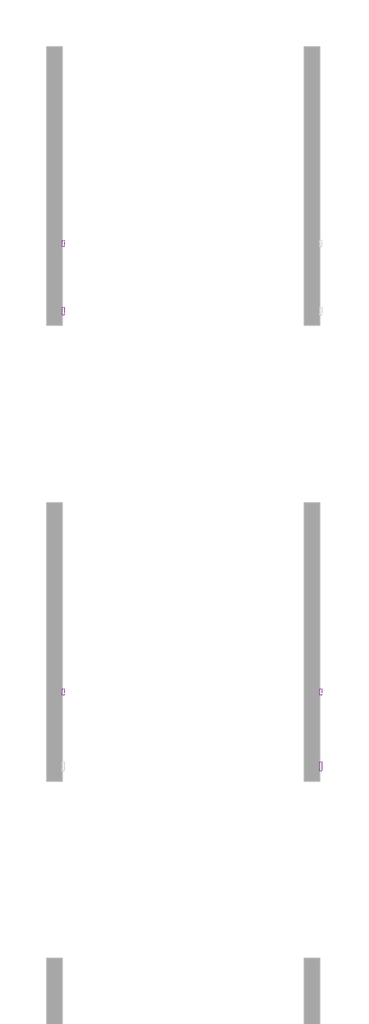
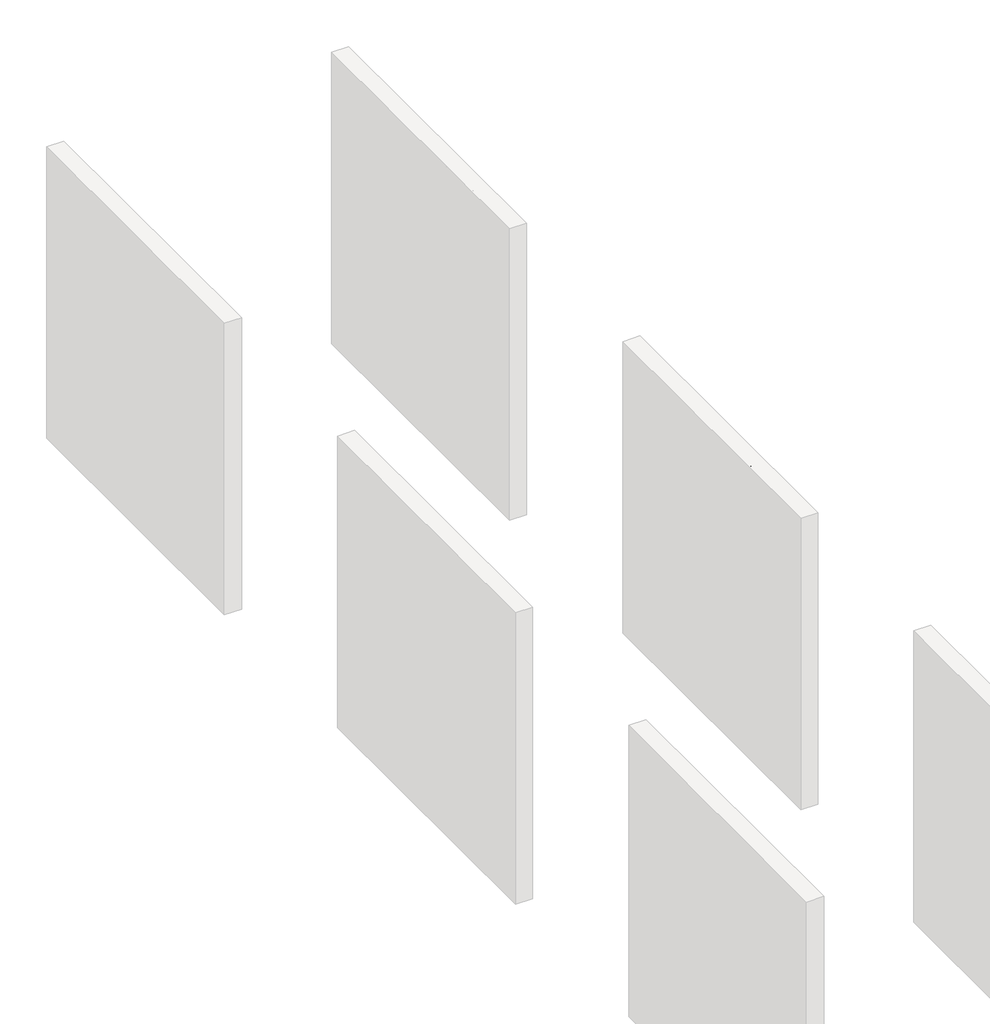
# One storey, part 7 of 11: 5 proxies.
"""IFC4 building model written with IfcOpenShell, lengths in millimetres."""

from ifc_helpers import new_model, si_unit, frame, origin, place, context, project, spatial, polyline, outline, extrude, element, save

model = new_model("IFC4")

# Units and contexts
model_context = context("Model", 3, world=origin())
ifc_project = project(units=[si_unit("LENGTHUNIT", "METRE", prefix="MILLI")], contexts=[model_context])

# Site, building, storey
site = spatial("IfcSite", under=ifc_project)
building = spatial("IfcBuilding", under=site)
storey = spatial("IfcBuildingStorey", under=building, Name="PORTOBELLO - SHOWROOM", Elevation=0.0)

# Proxies
placement = place(None, origin())
element("IfcBuildingElementProxy", 1, Name="10mm Arial", ObjectType="10mm Arial", at=placement, inside=storey, context=model_context, shape_type="SweptSolid", body=[
    extrude(outline(polyline([(6079.9490841, 2478.2261649), (6079.9490841, 2578.6824751), (6118.282388, 2578.6824751), (6137.0566325, 2575.7271564), (6148.1421433, 2566.6404711), (6152.152057, 2553.7891267), (6148.7798054, 2542.0536911), (6138.5894742, 2533.1632095), (6150.9625719, 2523.7944814), (6155.2913167, 2508.1717593), (6152.335998, 2494.6704901), (6145.0151463, 2485.0565073), (6134.0890511, 2479.9552103), (6117.9880824, 2478.2261649), (6079.9490841, 2478.2261649)]), holes=[polyline([(6092.5061229, 2537.8720991), (6115.4374339, 2537.8720991), (6128.8283385, 2538.9512196), (6136.8849542, 2543.5987955), (6139.5950183, 2551.7780385), (6137.0688952, 2559.9695443), (6129.8338827, 2564.8133239), (6113.6961258, 2566.1254363), (6092.5061229, 2566.1254363), (6092.5061229, 2537.8720991)]), polyline([(6092.5061229, 2490.7832037), (6118.2578626, 2490.7832037), (6127.5775398, 2491.273713), (6135.4624772, 2494.0083025), (6140.6864015, 2499.5878461), (6142.734278, 2508.049132), (6140.3307823, 2517.8102676), (6132.5439467, 2523.6350659), (6117.0315892, 2525.3150603), (6092.5061229, 2525.3150603), (6092.5061229, 2490.7832037)])]), frame((-27447.8341365, 0.0, 0.0), z_axis=(1.0, 0.0, 0.0), x_axis=(0.0, 1.0, 0.0)), (0.0, 0.0, 1.0), 20.0),
    extrude(outline(polyline([(6167.8483555, 2515.1124663), (6170.5645509, 2532.8995608), (6178.7131371, 2545.4014173), (6188.780841, 2551.5266525), (6200.8351077, 2553.5683975), (6214.0267429, 2551.0821284), (6224.5634964, 2543.6233209), (6231.4704809, 2531.7805864), (6233.772809, 2516.1425359), (6229.7015816, 2493.7998361), (6217.8435186, 2481.1569582), (6200.8351077, 2476.6565351), (6187.484057, 2479.1336072), (6176.9595662, 2486.5648235), (6170.1261582, 2498.6558784), (6167.8483555, 2515.1124663)]), holes=[polyline([(6180.4053943, 2515.1369918), (6181.8585282, 2503.7725038), (6186.2179298, 2495.6760342), (6192.778492, 2490.829189), (6200.8351077, 2489.2135739), (6208.8549352, 2490.838386), (6215.4032347, 2495.7128224), (6219.7626364, 2503.9165909), (6221.2157703, 2515.5293992), (6219.7534393, 2526.5627934), (6215.3664465, 2534.5488984), (6208.80895, 2539.3957437), (6200.8351077, 2541.0113588), (6192.778492, 2539.401875), (6186.2179298, 2534.5734239), (6181.8585282, 2526.4953484), (6180.4053943, 2515.1369918)])]), frame((-27447.8341365, 0.0, 0.0), z_axis=(1.0, 0.0, 0.0), x_axis=(0.0, 1.0, 0.0)), (0.0, 0.0, 1.0), 20.0),
    extrude(outline(polyline([(6247.8994777, 2478.2261649), (6247.8994777, 2551.9987677), (6258.8868866, 2551.9987677), (6258.8868866, 2541.0849352), (6266.6859849, 2551.1403764), (6274.5341341, 2553.5683975), (6287.1402238, 2549.6933739), (6282.9463691, 2538.4361848), (6274.1172012, 2541.0113588), (6267.0170787, 2538.5342867), (6262.4921301, 2531.6671561), (6260.4565164, 2517.0009272), (6260.4565164, 2478.2261649), (6247.8994777, 2478.2261649)])), frame((-27447.8341365, 0.0, 0.0), z_axis=(1.0, 0.0, 0.0), x_axis=(0.0, 1.0, 0.0)), (0.0, 0.0, 1.0), 20.0),
    extrude(outline(polyline([(6342.0772684, 2487.643944), (6329.9003744, 2479.1336072), (6316.4481561, 2476.6565351), (6305.9543222, 2478.1464572), (6298.2134719, 2482.6162234), (6293.440203, 2489.4036462), (6291.8491133, 2497.846538), (6294.252609, 2507.7793519), (6300.5679166, 2514.989839), (6309.3602963, 2519.1101173), (6320.2250779, 2520.9985782), (6342.003692, 2525.3150603), (6342.0772684, 2528.1109635), (6338.6191777, 2537.3815898), (6324.7377637, 2541.0113588), (6312.0335721, 2538.5956003), (6305.975782, 2530.0239499), (6293.4187432, 2531.5935797), (6298.851134, 2543.8563129), (6309.789492, 2551.0422745), (6326.3564445, 2553.5683975), (6341.5744964, 2551.3365801), (6350.1706723, 2545.732511), (6354.0211705, 2537.2099115), (6354.6343072, 2526.2225026), (6354.6343072, 2510.5997805), (6355.2719693, 2488.7843782), (6357.7735669, 2478.2261649), (6345.2165281, 2478.2261649), (6342.0772684, 2487.643944)]), holes=[polyline([(6342.0772684, 2512.7580215), (6321.8192332, 2508.9075233), (6311.0157653, 2506.8719096), (6306.1229348, 2503.5609717), (6304.4061521, 2498.7294548), (6308.1462857, 2491.9359006), (6319.1214319, 2489.2135739), (6331.8256235, 2492.2179435), (6340.0171292, 2499.4897443), (6342.003692, 2509.2018289), (6342.0772684, 2512.7580215)])]), frame((-27447.8341365, 0.0, 0.0), z_axis=(1.0, 0.0, 0.0), x_axis=(0.0, 1.0, 0.0)), (0.0, 0.0, 1.0), 20.0),
    extrude(outline(polyline([(6412.7106115, 2478.2261649), (6412.7106115, 2578.6824751), (6451.0439154, 2578.6824751), (6469.8181599, 2575.7271564), (6480.9036707, 2566.6404711), (6484.9135844, 2553.7891267), (6481.5413328, 2542.0536911), (6471.3510015, 2533.1632095), (6483.7240993, 2523.7944814), (6488.0528441, 2508.1717593), (6485.0975254, 2494.6704901), (6477.7766737, 2485.0565073), (6466.8505784, 2479.9552103), (6450.7496098, 2478.2261649), (6412.7106115, 2478.2261649)]), holes=[polyline([(6425.2676503, 2537.8720991), (6448.1989613, 2537.8720991), (6461.5898659, 2538.9512196), (6469.6464816, 2543.5987955), (6472.3565456, 2551.7780385), (6469.8304226, 2559.9695443), (6462.59541, 2564.8133239), (6446.4576532, 2566.1254363), (6425.2676503, 2566.1254363), (6425.2676503, 2537.8720991)]), polyline([(6425.2676503, 2490.7832037), (6451.0193899, 2490.7832037), (6460.3390671, 2491.273713), (6468.2240046, 2494.0083025), (6473.4479289, 2499.5878461), (6475.4958053, 2508.049132), (6473.0923096, 2517.8102676), (6465.3054741, 2523.6350659), (6449.7931166, 2525.3150603), (6425.2676503, 2525.3150603), (6425.2676503, 2490.7832037)])]), frame((-27447.8341365, 0.0, 0.0), z_axis=(1.0, 0.0, 0.0), x_axis=(0.0, 1.0, 0.0)), (0.0, 0.0, 1.0), 20.0),
    extrude(outline(polyline([(6500.6098829, 2515.1124663), (6503.3260783, 2532.8995608), (6511.4746645, 2545.4014173), (6521.5423684, 2551.5266525), (6533.5966351, 2553.5683975), (6546.7882703, 2551.0821284), (6557.3250238, 2543.6233209), (6564.2320083, 2531.7805864), (6566.5343364, 2516.1425359), (6562.463109, 2493.7998361), (6550.605046, 2481.1569582), (6533.5966351, 2476.6565351), (6520.2455844, 2479.1336072), (6509.7210936, 2486.5648235), (6502.8876856, 2498.6558784), (6500.6098829, 2515.1124663)]), holes=[polyline([(6513.1669216, 2515.1369918), (6514.6200555, 2503.7725038), (6518.9794572, 2495.6760342), (6525.5400194, 2490.829189), (6533.5966351, 2489.2135739), (6541.6164626, 2490.838386), (6548.1647621, 2495.7128224), (6552.5241638, 2503.9165909), (6553.9772976, 2515.5293992), (6552.5149667, 2526.5627934), (6548.1279739, 2534.5488984), (6541.5704774, 2539.3957437), (6533.5966351, 2541.0113588), (6525.5400194, 2539.401875), (6518.9794572, 2534.5734239), (6514.6200555, 2526.4953484), (6513.1669216, 2515.1369918)])]), frame((-27447.8341365, 0.0, 0.0), z_axis=(1.0, 0.0, 0.0), x_axis=(0.0, 1.0, 0.0)), (0.0, 0.0, 1.0), 20.0),
    extrude(outline(polyline([(6580.661005, 2478.2261649), (6580.661005, 2551.9987677), (6591.6484139, 2551.9987677), (6591.6484139, 2541.0849352), (6599.4475122, 2551.1403764), (6607.2956615, 2553.5683975), (6619.9017512, 2549.6933739), (6615.7078964, 2538.4361848), (6606.8787285, 2541.0113588), (6599.778606, 2538.5342867), (6595.2536575, 2531.6671561), (6593.2180438, 2517.0009272), (6593.2180438, 2478.2261649), (6580.661005, 2478.2261649)])), frame((-27447.8341365, 0.0, 0.0), z_axis=(1.0, 0.0, 0.0), x_axis=(0.0, 1.0, 0.0)), (0.0, 0.0, 1.0), 20.0),
    extrude(outline(polyline([(6674.8387958, 2487.643944), (6662.6619017, 2479.1336072), (6649.2096835, 2476.6565351), (6638.7158495, 2478.1464572), (6630.9749992, 2482.6162234), (6626.2017303, 2489.4036462), (6624.6106407, 2497.846538), (6627.0141364, 2507.7793519), (6633.329444, 2514.989839), (6642.1218237, 2519.1101173), (6652.9866053, 2520.9985782), (6674.7652194, 2525.3150603), (6674.8387958, 2528.1109635), (6671.380705, 2537.3815898), (6657.4992911, 2541.0113588), (6644.7950995, 2538.5956003), (6638.7373093, 2530.0239499), (6626.1802706, 2531.5935797), (6631.6126614, 2543.8563129), (6642.5510193, 2551.0422745), (6659.1179719, 2553.5683975), (6674.3360237, 2551.3365801), (6682.9321997, 2545.732511), (6686.7826979, 2537.2099115), (6687.3958346, 2526.2225026), (6687.3958346, 2510.5997805), (6688.0334967, 2488.7843782), (6690.5350942, 2478.2261649), (6677.9780555, 2478.2261649), (6674.8387958, 2487.643944)]), holes=[polyline([(6674.8387958, 2512.7580215), (6654.5807606, 2508.9075233), (6643.7772927, 2506.8719096), (6638.8844621, 2503.5609717), (6637.1676795, 2498.7294548), (6640.9078131, 2491.9359006), (6651.8829593, 2489.2135739), (6664.5871509, 2492.2179435), (6672.7786566, 2499.4897443), (6674.7652194, 2509.2018289), (6674.8387958, 2512.7580215)])]), frame((-27447.8341365, 0.0, 0.0), z_axis=(1.0, 0.0, 0.0), x_axis=(0.0, 1.0, 0.0)), (0.0, 0.0, 1.0), 20.0),
])
element("IfcBuildingElementProxy", 2, Name="10mm Arial", ObjectType="10mm Arial", at=placement, inside=storey, context=model_context, shape_type="SweptSolid", body=[
    extrude(outline(polyline([(1659.9490841, 2478.2261649), (1659.9490841, 2578.6824751), (1681.55602, 2578.6824751), (1702.1083608, 2507.8774537), (1706.2531646, 2493.0885975), (1710.7413249, 2509.1037271), (1730.9503092, 2578.6824751), (1752.557245, 2578.6824751), (1752.557245, 2478.2261649), (1740.0002063, 2478.2261649), (1740.0002063, 2566.1254363), (1714.7635014, 2478.2261649), (1697.7428278, 2478.2261649), (1672.5061229, 2566.1254363), (1672.5061229, 2478.2261649), (1659.9490841, 2478.2261649)])), frame((-24947.8341365, 0.0, 0.0), z_axis=(1.0, 0.0, 0.0), x_axis=(0.0, 1.0, 0.0)), (0.0, 0.0, 1.0), 20.0),
    extrude(outline(polyline([(1820.0513284, 2487.643944), (1807.8744344, 2479.1336072), (1794.4222161, 2476.6565351), (1783.9283822, 2478.1464572), (1776.1875319, 2482.6162234), (1771.414263, 2489.4036462), (1769.8231733, 2497.846538), (1772.226669, 2507.7793519), (1778.5419766, 2514.989839), (1787.3343563, 2519.1101173), (1798.1991379, 2520.9985782), (1819.977752, 2525.3150603), (1820.0513284, 2528.1109635), (1816.5932377, 2537.3815898), (1802.7118237, 2541.0113588), (1790.0076321, 2538.5956003), (1783.949842, 2530.0239499), (1771.3928032, 2531.5935797), (1776.825194, 2543.8563129), (1787.763552, 2551.0422745), (1804.3305045, 2553.5683975), (1819.5485564, 2551.3365801), (1828.1447323, 2545.732511), (1831.9952305, 2537.2099115), (1832.6083672, 2526.2225026), (1832.6083672, 2510.5997805), (1833.2460293, 2488.7843782), (1835.7476269, 2478.2261649), (1823.1905881, 2478.2261649), (1820.0513284, 2487.643944)]), holes=[polyline([(1820.0513284, 2512.7580215), (1799.7932932, 2508.9075233), (1788.9898253, 2506.8719096), (1784.0969948, 2503.5609717), (1782.3802121, 2498.7294548), (1786.1203457, 2491.9359006), (1797.0954919, 2489.2135739), (1809.7996835, 2492.2179435), (1817.9911892, 2499.4897443), (1819.977752, 2509.2018289), (1820.0513284, 2512.7580215)])]), frame((-24947.8341365, 0.0, 0.0), z_axis=(1.0, 0.0, 0.0), x_axis=(0.0, 1.0, 0.0)), (0.0, 0.0, 1.0), 20.0),
    extrude(outline(polyline([(1849.8742955, 2478.2261649), (1849.8742955, 2551.9987677), (1862.4313343, 2551.9987677), (1862.4313343, 2541.6980718), (1872.0330543, 2550.6008161), (1885.1419161, 2553.5683975), (1896.9999791, 2551.1771646), (1905.093383, 2544.8986452), (1908.8580421, 2535.6648071), (1909.5202296, 2523.5247013), (1909.5202296, 2478.2261649), (1896.9631909, 2478.2261649), (1896.9631909, 2521.8324441), (1895.5161884, 2532.9424804), (1890.4026286, 2538.8163295), (1881.7819272, 2541.0113588), (1868.1580307, 2536.08174), (1863.8630084, 2528.938698), (1862.4313343, 2517.3688092), (1862.4313343, 2478.2261649), (1849.8742955, 2478.2261649)])), frame((-24947.8341365, 0.0, 0.0), z_axis=(1.0, 0.0, 0.0), x_axis=(0.0, 1.0, 0.0)), (0.0, 0.0, 1.0), 20.0),
    extrude(outline(polyline([(1972.3054235, 2478.2261649), (1972.3054235, 2490.0719652), (1963.9974218, 2480.0103926), (1952.5133722, 2476.6565351), (1936.9642265, 2481.5125774), (1925.9768176, 2495.0628976), (1922.0772684, 2515.0388899), (1925.6702492, 2535.027145), (1936.436929, 2548.7859316), (1952.4643212, 2553.5683975), (1964.0403413, 2550.147095), (1972.3054235, 2541.2566134), (1972.3054235, 2578.6824751), (1984.8624623, 2578.6824751), (1984.8624623, 2478.2261649), (1972.3054235, 2478.2261649)]), holes=[polyline([(1934.6343072, 2515.0879409), (1936.0506529, 2503.7295842), (1940.2996899, 2495.6515088), (1946.4739761, 2490.8230576), (1953.6660691, 2489.2135739), (1960.8550964, 2490.7494812), (1966.8730327, 2495.3572032), (1970.9473258, 2503.122579), (1972.3054235, 2514.1314477), (1970.9228003, 2526.1673203), (1966.7749308, 2534.5121102), (1960.6037104, 2539.3865466), (1953.1510343, 2541.0113588), (1945.8853649, 2539.450926), (1939.9318079, 2534.7696276), (1935.9586824, 2526.7283403), (1934.6343072, 2515.0879409)])]), frame((-24947.8341365, 0.0, 0.0), z_axis=(1.0, 0.0, 0.0), x_axis=(0.0, 1.0, 0.0)), (0.0, 0.0, 1.0), 20.0),
    extrude(outline(polyline([(2050.7869158, 2487.643944), (2038.6100218, 2479.1336072), (2025.1578035, 2476.6565351), (2014.6639696, 2478.1464572), (2006.9231192, 2482.6162234), (2002.1498504, 2489.4036462), (2000.5587607, 2497.846538), (2002.9622564, 2507.7793519), (2009.277564, 2514.989839), (2018.0699437, 2519.1101173), (2028.9347253, 2520.9985782), (2050.7133394, 2525.3150603), (2050.7869158, 2528.1109635), (2047.328825, 2537.3815898), (2033.4474111, 2541.0113588), (2020.7432195, 2538.5956003), (2014.6854293, 2530.0239499), (2002.1283906, 2531.5935797), (2007.5607814, 2543.8563129), (2018.4991394, 2551.0422745), (2035.0660919, 2553.5683975), (2050.2841437, 2551.3365801), (2058.8803197, 2545.732511), (2062.7308179, 2537.2099115), (2063.3439546, 2526.2225026), (2063.3439546, 2510.5997805), (2063.9816167, 2488.7843782), (2066.4832143, 2478.2261649), (2053.9261755, 2478.2261649), (2050.7869158, 2487.643944)]), holes=[polyline([(2050.7869158, 2512.7580215), (2030.5288806, 2508.9075233), (2019.7254127, 2506.8719096), (2014.8325821, 2503.5609717), (2013.1157995, 2498.7294548), (2016.8559331, 2491.9359006), (2027.8310793, 2489.2135739), (2040.5352709, 2492.2179435), (2048.7267766, 2499.4897443), (2050.7133394, 2509.2018289), (2050.7869158, 2512.7580215)])]), frame((-24947.8341365, 0.0, 0.0), z_axis=(1.0, 0.0, 0.0), x_axis=(0.0, 1.0, 0.0)), (0.0, 0.0, 1.0), 20.0),
    extrude(outline(polyline([(2127.6987783, 2504.9098723), (2140.255817, 2503.3402425), (2136.7548067, 2492.1719582), (2130.1758504, 2483.7321321), (2121.138216, 2478.4254343), (2110.2611717, 2476.6565351), (2096.9039896, 2479.1244101), (2086.4592066, 2486.5280353), (2079.717769, 2498.5424481), (2077.4706232, 2514.8426862), (2081.3088587, 2535.7015953), (2093.0075061, 2549.1047627), (2110.0894934, 2553.5683975), (2120.6998233, 2552.0355559), (2129.182569, 2547.437031), (2135.2679503, 2540.0180774), (2138.6861872, 2530.0239499), (2126.1291484, 2528.45432), (2120.3043502, 2537.8598364), (2110.1875953, 2541.0113588), (2102.0727316, 2539.460123), (2095.631731, 2534.8064158), (2091.4286792, 2526.798851), (2090.0276619, 2515.1860427), (2091.3980224, 2503.4168846), (2095.5091037, 2495.3817286), (2101.8336083, 2490.7556126), (2109.8442388, 2489.2135739), (2121.6777763, 2493.0640721), (2127.6987783, 2504.9098723)])), frame((-24947.8341365, 0.0, 0.0), z_axis=(1.0, 0.0, 0.0), x_axis=(0.0, 1.0, 0.0)), (0.0, 0.0, 1.0), 20.0),
    extrude(outline(polyline([(2198.3321213, 2487.643944), (2186.1552273, 2479.1336072), (2172.703009, 2476.6565351), (2162.2091751, 2478.1464572), (2154.4683248, 2482.6162234), (2149.6950559, 2489.4036462), (2148.1039663, 2497.846538), (2150.507462, 2507.7793519), (2156.8227695, 2514.989839), (2165.6151492, 2519.1101173), (2176.4799308, 2520.9985782), (2198.2585449, 2525.3150603), (2198.3321213, 2528.1109635), (2194.8740306, 2537.3815898), (2180.9926166, 2541.0113588), (2168.2884251, 2538.5956003), (2162.2306349, 2530.0239499), (2149.6735961, 2531.5935797), (2155.1059869, 2543.8563129), (2166.0443449, 2551.0422745), (2182.6112974, 2553.5683975), (2197.8293493, 2551.3365801), (2206.4255252, 2545.732511), (2210.2760234, 2537.2099115), (2210.8891601, 2526.2225026), (2210.8891601, 2510.5997805), (2211.5268222, 2488.7843782), (2214.0284198, 2478.2261649), (2201.471381, 2478.2261649), (2198.3321213, 2487.643944)]), holes=[polyline([(2198.3321213, 2512.7580215), (2178.0740861, 2508.9075233), (2167.2706182, 2506.8719096), (2162.3777877, 2503.5609717), (2160.661005, 2498.7294548), (2164.4011386, 2491.9359006), (2175.3762848, 2489.2135739), (2188.0804764, 2492.2179435), (2196.2719822, 2499.4897443), (2198.2585449, 2509.2018289), (2198.3321213, 2512.7580215)])]), frame((-24947.8341365, 0.0, 0.0), z_axis=(1.0, 0.0, 0.0), x_axis=(0.0, 1.0, 0.0)), (0.0, 0.0, 1.0), 20.0),
    extrude(outline(polyline([(2228.1550884, 2478.2261649), (2228.1550884, 2551.9987677), (2239.1424973, 2551.9987677), (2239.1424973, 2541.0849352), (2246.9415956, 2551.1403764), (2254.7897449, 2553.5683975), (2267.3958346, 2549.6933739), (2263.2019798, 2538.4361848), (2254.3728119, 2541.0113588), (2247.2726894, 2538.5342867), (2242.7477409, 2531.6671561), (2240.7121272, 2517.0009272), (2240.7121272, 2478.2261649), (2228.1550884, 2478.2261649)])), frame((-24947.8341365, 0.0, 0.0), z_axis=(1.0, 0.0, 0.0), x_axis=(0.0, 1.0, 0.0)), (0.0, 0.0, 1.0), 20.0),
    extrude(outline(polyline([(2322.3328792, 2478.2261649), (2322.3328792, 2490.905831), (2312.4981672, 2480.2188591), (2299.6713483, 2476.6565351), (2287.8623362, 2479.1581327), (2279.7198814, 2485.436652), (2275.9797478, 2494.6827529), (2275.2439838, 2506.3568748), (2275.2439838, 2551.9987677), (2287.8010226, 2551.9987677), (2287.8010226, 2512.2675122), (2288.561312, 2499.4652188), (2293.5277189, 2491.9481634), (2302.8841844, 2489.2135739), (2313.3688212, 2492.009477), (2320.2972655, 2499.6246343), (2322.3328792, 2513.6164129), (2322.3328792, 2551.9987677), (2334.8899179, 2551.9987677), (2334.8899179, 2478.2261649), (2322.3328792, 2478.2261649)])), frame((-24947.8341365, 0.0, 0.0), z_axis=(1.0, 0.0, 0.0), x_axis=(0.0, 1.0, 0.0)), (0.0, 0.0, 1.0), 20.0),
])
element("IfcBuildingElementProxy", 3, Name="10mm Arial Narrow", ObjectType="10mm Arial Narrow", at=placement, inside=storey, context=model_context, shape_type="SweptSolid", body=[
    extrude(outline(polyline([(6742.0841432, 2478.2261649), (6742.0841432, 2578.9447687), (6773.3810279, 2578.9447687), (6789.6767294, 2577.066448), (6801.1497156, 2567.5860048), (6805.439394, 2550.566896), (6803.6530856, 2538.4910704), (6798.2941604, 2528.8646766), (6788.5503716, 2522.5634182), (6773.6094723, 2520.4629988), (6751.8311049, 2520.4629988), (6751.8311049, 2478.2261649), (6742.0841432, 2478.2261649)]), holes=[polyline([(6751.8311049, 2531.834454), (6774.8024598, 2531.834454), (6790.6666552, 2536.3652682), (6795.6924323, 2550.033859), (6793.2176179, 2560.1996354), (6787.239989, 2565.9995852), (6774.5740154, 2567.5733134), (6751.8311049, 2567.5733134), (6751.8311049, 2531.834454)])]), frame((-27447.8341365, 0.0, 0.0), z_axis=(1.0, 0.0, 0.0), x_axis=(0.0, 1.0, 0.0)), (0.0, 0.0, 1.0), 20.0),
    extrude(outline(polyline([(6813.561862, 2514.7772711), (6815.5163309, 2531.3680467), (6821.3797375, 2543.3201315), (6830.2383042, 2550.5446861), (6841.1782534, 2552.9528709), (6851.991289, 2550.5446861), (6860.8752384, 2543.3201315), (6866.8147932, 2531.558417), (6868.7946447, 2515.5387525), (6866.8496944, 2498.3768659), (6861.0148433, 2486.2344108), (6852.1657951, 2479.0098562), (6841.1782534, 2476.6016713), (6830.3176252, 2479.0162019), (6821.4431943, 2486.2597935), (6815.5321951, 2498.218224), (6813.561862, 2514.7772711)]), holes=[polyline([(6823.3088237, 2514.8026538), (6824.6128605, 2502.2509024), (6828.5249711, 2493.3796444), (6834.3661679, 2488.1063858), (6841.4574632, 2486.348633), (6848.1775364, 2488.12225), (6853.8696097, 2493.4431012), (6857.7531647, 2502.3302234), (6859.0476831, 2514.8026538), (6857.7436462, 2527.3163312), (6853.8315356, 2536.1748979), (6847.9903389, 2541.4481564), (6840.8990435, 2543.2059093), (6834.1313778, 2541.4386379), (6828.448823, 2536.1368238), (6824.5938235, 2527.2687386), (6823.3088237, 2514.8026538)])]), frame((-27447.8341365, 0.0, 0.0), z_axis=(1.0, 0.0, 0.0), x_axis=(0.0, 1.0, 0.0)), (0.0, 0.0, 1.0), 20.0),
    extrude(outline(polyline([(6940.2723635, 2486.348633), (6941.8968571, 2476.6016713), (6934.5358705, 2476.6016713), (6926.2611062, 2478.7211278), (6921.946045, 2484.5210777), (6920.7784402, 2499.1669029), (6920.7784402, 2541.5814157), (6912.6559722, 2541.5814157), (6912.6559722, 2544.8304029), (6911.0314786, 2539.9569221), (6903.4674302, 2541.5814157), (6897.3882705, 2539.2588975), (6893.5174068, 2532.7736144), (6891.5375553, 2517.3663078), (6891.5375553, 2478.2261649), (6881.7905936, 2478.2261649), (6881.7905936, 2551.3283773), (6891.5375553, 2551.3283773), (6891.5375553, 2541.6321811), (6897.7817026, 2550.7191922), (6904.1781462, 2552.9528709), (6912.6559722, 2551.3283773), (6920.7784402, 2551.3283773), (6920.7784402, 2567.5733134), (6930.5254019, 2575.6957815), (6930.5254019, 2551.3283773), (6940.2723635, 2551.3283773), (6940.2723635, 2541.5814157), (6930.5254019, 2541.5814157), (6930.5254019, 2496.9332241), (6931.3884141, 2488.9376697), (6936.0080678, 2486.348633), (6940.2723635, 2486.348633)])), frame((-27447.8341365, 0.0, 0.0), z_axis=(1.0, 0.0, 0.0), x_axis=(0.0, 1.0, 0.0)), (0.0, 0.0, 1.0), 20.0),
    extrude(outline(polyline([(6946.770338, 2514.7772711), (6948.7248068, 2531.3680467), (6954.5882135, 2543.3201315), (6963.4467802, 2550.5446861), (6974.3867293, 2552.9528709), (6985.1997649, 2550.5446861), (6994.0837143, 2543.3201315), (7000.0232691, 2531.558417), (7002.0031207, 2515.5387525), (7000.0581703, 2498.3768659), (6994.2233192, 2486.2344108), (6985.3742711, 2479.0098562), (6974.3867293, 2476.6016713), (6963.5261011, 2479.0162019), (6954.6516702, 2486.2597935), (6948.740671, 2498.218224), (6946.770338, 2514.7772711)]), holes=[polyline([(6956.5172996, 2514.8026538), (6957.8213365, 2502.2509024), (6961.7334471, 2493.3796444), (6967.5746438, 2488.1063858), (6974.6659392, 2486.348633), (6981.3860123, 2488.12225), (6987.0780856, 2493.4431012), (6990.9616407, 2502.3302234), (6992.256159, 2514.8026538), (6990.9521222, 2527.3163312), (6987.0400116, 2536.1748979), (6981.1988148, 2541.4481564), (6974.1075195, 2543.2059093), (6967.3398537, 2541.4386379), (6961.6572989, 2536.1368238), (6957.8022994, 2527.2687386), (6956.5172996, 2514.8026538)])]), frame((-27447.8341365, 0.0, 0.0), z_axis=(1.0, 0.0, 0.0), x_axis=(0.0, 1.0, 0.0)), (0.0, 0.0, 1.0), 20.0),
    extrude(outline(polyline([(7024.7460312, 2478.2261649), (7014.9990695, 2478.2261649), (7014.9990695, 2578.9447687), (7024.7460312, 2578.9447687), (7024.7460312, 2543.5358846), (7032.1450919, 2550.6176614), (7041.3463253, 2552.9528709), (7054.2280519, 2548.752032), (7063.5054334, 2536.0226016), (7066.982865, 2515.3356908), (7065.050606, 2498.8813473), (7059.253829, 2486.6786082), (7050.8807067, 2479.1209056), (7041.2194117, 2476.6016713), (7031.8785734, 2479.2160907), (7024.7460312, 2486.9832008), (7024.7460312, 2478.2261649)]), holes=[polyline([(7024.7460312, 2515.3356908), (7026.8274136, 2498.0881376), (7032.716203, 2489.3564844), (7041.1686463, 2486.348633), (7047.1113739, 2488.1381142), (7052.3497312, 2493.5065579), (7057.2359034, 2514.9295674), (7052.5274102, 2536.3652682), (7047.2827072, 2541.495749), (7040.9655846, 2543.2059093), (7034.9879557, 2541.416428), (7029.6956602, 2536.0479843), (7024.7460312, 2515.3356908)])]), frame((-27447.8341365, 0.0, 0.0), z_axis=(1.0, 0.0, 0.0), x_axis=(0.0, 1.0, 0.0)), (0.0, 0.0, 1.0), 20.0),
    extrude(outline(polyline([(7118.9666605, 2500.9690755), (7128.7136222, 2499.3445819), (7125.0140918, 2489.4580153), (7119.1951049, 2482.3381644), (7111.4914516, 2478.0357946), (7102.137922, 2476.6016713), (7090.544368, 2479.0162019), (7081.4002458, 2486.2597935), (7075.460691, 2498.0659277), (7073.4808395, 2514.168086), (7075.4702096, 2530.8350097), (7081.4383199, 2543.0155389), (7090.4523557, 2550.4685379), (7101.5795024, 2552.9528709), (7112.2624515, 2550.5542046), (7121.0099689, 2543.3582056), (7126.8448199, 2531.618701), (7128.7897703, 2515.5895179), (7128.7136222, 2512.3405307), (7083.2278011, 2512.3405307), (7089.2308127, 2492.8973728), (7095.1608489, 2487.9858179), (7102.2648356, 2486.348633), (7112.4433034, 2490.0037436), (7118.9666605, 2500.9690755)]), holes=[polyline([(7083.8877516, 2522.0874924), (7118.9666605, 2522.0874924), (7114.7023648, 2536.3525769), (7108.8770322, 2541.4925762), (7101.6556505, 2543.2059093), (7089.4465657, 2537.4947989), (7083.8877516, 2522.0874924)])]), frame((-27447.8341365, 0.0, 0.0), z_axis=(1.0, 0.0, 0.0), x_axis=(0.0, 1.0, 0.0)), (0.0, 0.0, 1.0), 20.0),
    extrude(outline(polyline([(-27427.8341365, 7151.4565327), (-27427.8341365, 7141.709571), (-27447.8341365, 7141.709571), (-27447.8341365, 7151.4565327), (-27427.8341365, 7151.4565327)])), frame((0.0, 0.0, 2478.2261649), z_axis=(0.0, 0.0, 1.0), x_axis=(1.0, 0.0, 0.0)), (0.0, 0.0, 1.0), 100.7186038),
    extrude(outline(polyline([(-27427.8341365, 7177.4484304), (-27427.8341365, 7167.7014688), (-27447.8341365, 7167.7014688), (-27447.8341365, 7177.4484304), (-27427.8341365, 7177.4484304)])), frame((0.0, 0.0, 2478.2261649), z_axis=(0.0, 0.0, 1.0), x_axis=(1.0, 0.0, 0.0)), (0.0, 0.0, 1.0), 100.7186038),
    extrude(outline(polyline([(7188.8198857, 2514.7772711), (7190.7743546, 2531.3680467), (7196.6377612, 2543.3201315), (7205.4963279, 2550.5446861), (7216.436277, 2552.9528709), (7227.2493126, 2550.5446861), (7236.1332621, 2543.3201315), (7242.0728168, 2531.558417), (7244.0526684, 2515.5387525), (7242.107718, 2498.3768659), (7236.272867, 2486.2344108), (7227.4238188, 2479.0098562), (7216.436277, 2476.6016713), (7205.5756489, 2479.0162019), (7196.701218, 2486.2597935), (7190.7902188, 2498.218224), (7188.8198857, 2514.7772711)]), holes=[polyline([(7198.5668473, 2514.8026538), (7199.8708842, 2502.2509024), (7203.7829948, 2493.3796444), (7209.6241915, 2488.1063858), (7216.7154869, 2486.348633), (7223.4355601, 2488.12225), (7229.1276334, 2493.4431012), (7233.0111884, 2502.3302234), (7234.3057067, 2514.8026538), (7233.0016699, 2527.3163312), (7229.0895593, 2536.1748979), (7223.2483626, 2541.4481564), (7216.1570672, 2543.2059093), (7209.3894014, 2541.4386379), (7203.7068467, 2536.1368238), (7199.8518472, 2527.2687386), (7198.5668473, 2514.8026538)])]), frame((-27447.8341365, 0.0, 0.0), z_axis=(1.0, 0.0, 0.0), x_axis=(0.0, 1.0, 0.0)), (0.0, 0.0, 1.0), 20.0),
])
element("IfcBuildingElementProxy", 4, Name="10mm Arial Narrow", ObjectType="10mm Arial Narrow", at=placement, inside=storey, context=model_context, shape_type="SweptSolid", body=[
    extrude(outline(polyline([(2397.0841432, 2478.2261649), (2397.0841432, 2578.9447687), (2428.3810279, 2578.9447687), (2444.6767294, 2577.066448), (2456.1497156, 2567.5860048), (2460.439394, 2550.566896), (2458.6530856, 2538.4910704), (2453.2941604, 2528.8646766), (2443.5503716, 2522.5634182), (2428.6094723, 2520.4629988), (2406.8311049, 2520.4629988), (2406.8311049, 2478.2261649), (2397.0841432, 2478.2261649)]), holes=[polyline([(2406.8311049, 2531.834454), (2429.8024598, 2531.834454), (2445.6666552, 2536.3652682), (2450.6924323, 2550.033859), (2448.2176179, 2560.1996354), (2442.239989, 2565.9995852), (2429.5740154, 2567.5733134), (2406.8311049, 2567.5733134), (2406.8311049, 2531.834454)])]), frame((-24947.8341365, 0.0, 0.0), z_axis=(1.0, 0.0, 0.0), x_axis=(0.0, 1.0, 0.0)), (0.0, 0.0, 1.0), 20.0),
    extrude(outline(polyline([(2468.561862, 2514.7772711), (2470.5163309, 2531.3680467), (2476.3797375, 2543.3201315), (2485.2383042, 2550.5446861), (2496.1782534, 2552.9528709), (2506.991289, 2550.5446861), (2515.8752384, 2543.3201315), (2521.8147932, 2531.558417), (2523.7946447, 2515.5387525), (2521.8496944, 2498.3768659), (2516.0148433, 2486.2344108), (2507.1657951, 2479.0098562), (2496.1782534, 2476.6016713), (2485.3176252, 2479.0162019), (2476.4431943, 2486.2597935), (2470.5321951, 2498.218224), (2468.561862, 2514.7772711)]), holes=[polyline([(2478.3088237, 2514.8026538), (2479.6128606, 2502.2509024), (2483.5249711, 2493.3796444), (2489.3661679, 2488.1063858), (2496.4574632, 2486.348633), (2503.1775364, 2488.12225), (2508.8696097, 2493.4431012), (2512.7531647, 2502.3302234), (2514.0476831, 2514.8026538), (2512.7436462, 2527.3163312), (2508.8315356, 2536.1748979), (2502.9903389, 2541.4481564), (2495.8990435, 2543.2059093), (2489.1313778, 2541.4386379), (2483.448823, 2536.1368238), (2479.5938235, 2527.2687386), (2478.3088237, 2514.8026538)])]), frame((-24947.8341365, 0.0, 0.0), z_axis=(1.0, 0.0, 0.0), x_axis=(0.0, 1.0, 0.0)), (0.0, 0.0, 1.0), 20.0),
    extrude(outline(polyline([(2595.2723635, 2486.348633), (2596.8968571, 2476.6016713), (2589.5358705, 2476.6016713), (2581.2611062, 2478.7211278), (2576.946045, 2484.5210777), (2575.7784402, 2499.1669029), (2575.7784402, 2541.5814157), (2567.6559722, 2541.5814157), (2567.6559722, 2544.8304029), (2566.0314786, 2539.9569221), (2558.4674302, 2541.5814157), (2552.3882705, 2539.2588975), (2548.5174068, 2532.7736144), (2546.5375553, 2517.3663078), (2546.5375553, 2478.2261649), (2536.7905936, 2478.2261649), (2536.7905936, 2551.3283773), (2546.5375553, 2551.3283773), (2546.5375553, 2541.6321811), (2552.7817026, 2550.7191922), (2559.1781462, 2552.9528709), (2567.6559722, 2551.3283773), (2575.7784402, 2551.3283773), (2575.7784402, 2567.5733134), (2585.5254019, 2575.6957815), (2585.5254019, 2551.3283773), (2595.2723635, 2551.3283773), (2595.2723635, 2541.5814157), (2585.5254019, 2541.5814157), (2585.5254019, 2496.9332241), (2586.3884141, 2488.9376697), (2591.0080678, 2486.348633), (2595.2723635, 2486.348633)])), frame((-24947.8341365, 0.0, 0.0), z_axis=(1.0, 0.0, 0.0), x_axis=(0.0, 1.0, 0.0)), (0.0, 0.0, 1.0), 20.0),
    extrude(outline(polyline([(2601.770338, 2514.7772711), (2603.7248068, 2531.3680467), (2609.5882135, 2543.3201315), (2618.4467802, 2550.5446861), (2629.3867293, 2552.9528709), (2640.1997649, 2550.5446861), (2649.0837143, 2543.3201315), (2655.0232691, 2531.558417), (2657.0031207, 2515.5387525), (2655.0581703, 2498.3768659), (2649.2233192, 2486.2344108), (2640.3742711, 2479.0098562), (2629.3867293, 2476.6016713), (2618.5261011, 2479.0162019), (2609.6516702, 2486.2597935), (2603.740671, 2498.218224), (2601.770338, 2514.7772711)]), holes=[polyline([(2611.5172996, 2514.8026538), (2612.8213365, 2502.2509024), (2616.7334471, 2493.3796444), (2622.5746438, 2488.1063858), (2629.6659392, 2486.348633), (2636.3860123, 2488.12225), (2642.0780856, 2493.4431012), (2645.9616407, 2502.3302234), (2647.256159, 2514.8026538), (2645.9521222, 2527.3163312), (2642.0400116, 2536.1748979), (2636.1988148, 2541.4481564), (2629.1075195, 2543.2059093), (2622.3398537, 2541.4386379), (2616.6572989, 2536.1368238), (2612.8022994, 2527.2687386), (2611.5172996, 2514.8026538)])]), frame((-24947.8341365, 0.0, 0.0), z_axis=(1.0, 0.0, 0.0), x_axis=(0.0, 1.0, 0.0)), (0.0, 0.0, 1.0), 20.0),
    extrude(outline(polyline([(2679.7460312, 2478.2261649), (2669.9990695, 2478.2261649), (2669.9990695, 2578.9447687), (2679.7460312, 2578.9447687), (2679.7460312, 2543.5358846), (2687.1450919, 2550.6176614), (2696.3463253, 2552.9528709), (2709.2280519, 2548.752032), (2718.5054334, 2536.0226016), (2721.982865, 2515.3356908), (2720.050606, 2498.8813473), (2714.253829, 2486.6786082), (2705.8807067, 2479.1209056), (2696.2194117, 2476.6016713), (2686.8785734, 2479.2160907), (2679.7460312, 2486.9832008), (2679.7460312, 2478.2261649)]), holes=[polyline([(2679.7460312, 2515.3356908), (2681.8274136, 2498.0881376), (2687.716203, 2489.3564844), (2696.1686463, 2486.348633), (2702.1113739, 2488.1381142), (2707.3497312, 2493.5065579), (2712.2359034, 2514.9295674), (2707.5274102, 2536.3652682), (2702.2827072, 2541.495749), (2695.9655846, 2543.2059093), (2689.9879557, 2541.416428), (2684.6956602, 2536.0479843), (2679.7460312, 2515.3356908)])]), frame((-24947.8341365, 0.0, 0.0), z_axis=(1.0, 0.0, 0.0), x_axis=(0.0, 1.0, 0.0)), (0.0, 0.0, 1.0), 20.0),
    extrude(outline(polyline([(2773.9666605, 2500.9690755), (2783.7136222, 2499.3445819), (2780.0140918, 2489.4580153), (2774.1951049, 2482.3381644), (2766.4914516, 2478.0357946), (2757.137922, 2476.6016713), (2745.544368, 2479.0162019), (2736.4002458, 2486.2597935), (2730.460691, 2498.0659277), (2728.4808395, 2514.168086), (2730.4702096, 2530.8350097), (2736.4383199, 2543.0155389), (2745.4523557, 2550.4685379), (2756.5795024, 2552.9528709), (2767.2624515, 2550.5542046), (2776.0099689, 2543.3582056), (2781.8448199, 2531.618701), (2783.7897703, 2515.5895179), (2783.7136222, 2512.3405307), (2738.2278011, 2512.3405307), (2744.2308127, 2492.8973728), (2750.1608489, 2487.9858179), (2757.2648356, 2486.348633), (2767.4433034, 2490.0037436), (2773.9666605, 2500.9690755)]), holes=[polyline([(2738.8877516, 2522.0874924), (2773.9666605, 2522.0874924), (2769.7023648, 2536.3525769), (2763.8770322, 2541.4925762), (2756.6556505, 2543.2059093), (2744.4465657, 2537.4947989), (2738.8877516, 2522.0874924)])]), frame((-24947.8341365, 0.0, 0.0), z_axis=(1.0, 0.0, 0.0), x_axis=(0.0, 1.0, 0.0)), (0.0, 0.0, 1.0), 20.0),
    extrude(outline(polyline([(-24927.8341365, 2806.4565327), (-24927.8341365, 2796.709571), (-24947.8341365, 2796.709571), (-24947.8341365, 2806.4565327), (-24927.8341365, 2806.4565327)])), frame((0.0, 0.0, 2478.2261649), z_axis=(0.0, 0.0, 1.0), x_axis=(1.0, 0.0, 0.0)), (0.0, 0.0, 1.0), 100.7186038),
    extrude(outline(polyline([(-24927.8341365, 2832.4484304), (-24927.8341365, 2822.7014688), (-24947.8341365, 2822.7014688), (-24947.8341365, 2832.4484304), (-24927.8341365, 2832.4484304)])), frame((0.0, 0.0, 2478.2261649), z_axis=(0.0, 0.0, 1.0), x_axis=(1.0, 0.0, 0.0)), (0.0, 0.0, 1.0), 100.7186038),
    extrude(outline(polyline([(2843.8198857, 2514.7772711), (2845.7743546, 2531.3680467), (2851.6377612, 2543.3201315), (2860.4963279, 2550.5446861), (2871.436277, 2552.9528709), (2882.2493126, 2550.5446861), (2891.1332621, 2543.3201315), (2897.0728168, 2531.558417), (2899.0526684, 2515.5387525), (2897.107718, 2498.3768659), (2891.272867, 2486.2344108), (2882.4238188, 2479.0098562), (2871.436277, 2476.6016713), (2860.5756489, 2479.0162019), (2851.701218, 2486.2597935), (2845.7902188, 2498.218224), (2843.8198857, 2514.7772711)]), holes=[polyline([(2853.5668473, 2514.8026538), (2854.8708842, 2502.2509024), (2858.7829948, 2493.3796444), (2864.6241915, 2488.1063858), (2871.7154869, 2486.348633), (2878.4355601, 2488.12225), (2884.1276334, 2493.4431012), (2888.0111884, 2502.3302234), (2889.3057067, 2514.8026538), (2888.0016699, 2527.3163312), (2884.0895593, 2536.1748979), (2878.2483626, 2541.4481564), (2871.1570672, 2543.2059093), (2864.3894015, 2541.4386379), (2858.7068467, 2536.1368238), (2854.8518472, 2527.2687386), (2853.5668473, 2514.8026538)])]), frame((-24947.8341365, 0.0, 0.0), z_axis=(1.0, 0.0, 0.0), x_axis=(0.0, 1.0, 0.0)), (0.0, 0.0, 1.0), 20.0),
])
element("IfcBuildingElementProxy", 5, Name="10mm Arial Narrow", ObjectType="10mm Arial Narrow", at=placement, inside=storey, context=model_context, shape_type="SweptSolid", body=[
    extrude(outline(polyline([(2397.0841432, 2478.2261649), (2397.0841432, 2578.9447687), (2428.3810279, 2578.9447687), (2444.6767294, 2577.066448), (2456.1497156, 2567.5860048), (2460.439394, 2550.566896), (2458.6530856, 2538.4910704), (2453.2941604, 2528.8646766), (2443.5503716, 2522.5634182), (2428.6094723, 2520.4629988), (2406.8311049, 2520.4629988), (2406.8311049, 2478.2261649), (2397.0841432, 2478.2261649)]), holes=[polyline([(2406.8311049, 2531.834454), (2429.8024598, 2531.834454), (2445.6666552, 2536.3652682), (2450.6924323, 2550.033859), (2448.2176179, 2560.1996354), (2442.239989, 2565.9995852), (2429.5740154, 2567.5733134), (2406.8311049, 2567.5733134), (2406.8311049, 2531.834454)])]), frame((-27447.8341365, 0.0, 0.0), z_axis=(1.0, 0.0, 0.0), x_axis=(0.0, 1.0, 0.0)), (0.0, 0.0, 1.0), 20.0),
    extrude(outline(polyline([(2468.561862, 2514.7772711), (2470.5163309, 2531.3680467), (2476.3797375, 2543.3201315), (2485.2383042, 2550.5446861), (2496.1782534, 2552.9528709), (2506.991289, 2550.5446861), (2515.8752384, 2543.3201315), (2521.8147932, 2531.558417), (2523.7946447, 2515.5387525), (2521.8496944, 2498.3768659), (2516.0148433, 2486.2344108), (2507.1657951, 2479.0098562), (2496.1782534, 2476.6016713), (2485.3176252, 2479.0162019), (2476.4431943, 2486.2597935), (2470.5321951, 2498.218224), (2468.561862, 2514.7772711)]), holes=[polyline([(2478.3088237, 2514.8026538), (2479.6128605, 2502.2509024), (2483.5249711, 2493.3796444), (2489.3661679, 2488.1063858), (2496.4574632, 2486.348633), (2503.1775364, 2488.12225), (2508.8696097, 2493.4431012), (2512.7531647, 2502.3302234), (2514.0476831, 2514.8026538), (2512.7436462, 2527.3163312), (2508.8315356, 2536.1748979), (2502.9903389, 2541.4481564), (2495.8990435, 2543.2059093), (2489.1313778, 2541.4386379), (2483.448823, 2536.1368238), (2479.5938235, 2527.2687386), (2478.3088237, 2514.8026538)])]), frame((-27447.8341365, 0.0, 0.0), z_axis=(1.0, 0.0, 0.0), x_axis=(0.0, 1.0, 0.0)), (0.0, 0.0, 1.0), 20.0),
    extrude(outline(polyline([(2595.2723635, 2486.348633), (2596.8968571, 2476.6016713), (2589.5358705, 2476.6016713), (2581.2611062, 2478.7211278), (2576.946045, 2484.5210777), (2575.7784402, 2499.1669029), (2575.7784402, 2541.5814157), (2567.6559722, 2541.5814157), (2567.6559722, 2544.8304029), (2566.0314786, 2539.9569221), (2558.4674302, 2541.5814157), (2552.3882705, 2539.2588975), (2548.5174068, 2532.7736144), (2546.5375553, 2517.3663078), (2546.5375553, 2478.2261649), (2536.7905936, 2478.2261649), (2536.7905936, 2551.3283773), (2546.5375553, 2551.3283773), (2546.5375553, 2541.6321811), (2552.7817026, 2550.7191922), (2559.1781462, 2552.9528709), (2567.6559722, 2551.3283773), (2575.7784402, 2551.3283773), (2575.7784402, 2567.5733134), (2585.5254019, 2575.6957815), (2585.5254019, 2551.3283773), (2595.2723635, 2551.3283773), (2595.2723635, 2541.5814157), (2585.5254019, 2541.5814157), (2585.5254019, 2496.9332241), (2586.3884141, 2488.9376697), (2591.0080678, 2486.348633), (2595.2723635, 2486.348633)])), frame((-27447.8341365, 0.0, 0.0), z_axis=(1.0, 0.0, 0.0), x_axis=(0.0, 1.0, 0.0)), (0.0, 0.0, 1.0), 20.0),
    extrude(outline(polyline([(2601.770338, 2514.7772711), (2603.7248068, 2531.3680467), (2609.5882135, 2543.3201315), (2618.4467802, 2550.5446861), (2629.3867293, 2552.9528709), (2640.1997649, 2550.5446861), (2649.0837143, 2543.3201315), (2655.0232691, 2531.558417), (2657.0031207, 2515.5387525), (2655.0581703, 2498.3768659), (2649.2233192, 2486.2344108), (2640.3742711, 2479.0098562), (2629.3867293, 2476.6016713), (2618.5261011, 2479.0162019), (2609.6516702, 2486.2597935), (2603.740671, 2498.218224), (2601.770338, 2514.7772711)]), holes=[polyline([(2611.5172996, 2514.8026538), (2612.8213365, 2502.2509024), (2616.7334471, 2493.3796444), (2622.5746438, 2488.1063858), (2629.6659392, 2486.348633), (2636.3860123, 2488.12225), (2642.0780856, 2493.4431012), (2645.9616407, 2502.3302234), (2647.256159, 2514.8026538), (2645.9521222, 2527.3163312), (2642.0400116, 2536.1748979), (2636.1988148, 2541.4481564), (2629.1075195, 2543.2059093), (2622.3398537, 2541.4386379), (2616.6572989, 2536.1368238), (2612.8022994, 2527.2687386), (2611.5172996, 2514.8026538)])]), frame((-27447.8341365, 0.0, 0.0), z_axis=(1.0, 0.0, 0.0), x_axis=(0.0, 1.0, 0.0)), (0.0, 0.0, 1.0), 20.0),
    extrude(outline(polyline([(2679.7460312, 2478.2261649), (2669.9990695, 2478.2261649), (2669.9990695, 2578.9447687), (2679.7460312, 2578.9447687), (2679.7460312, 2543.5358846), (2687.1450919, 2550.6176614), (2696.3463253, 2552.9528709), (2709.2280519, 2548.752032), (2718.5054334, 2536.0226016), (2721.982865, 2515.3356908), (2720.050606, 2498.8813473), (2714.253829, 2486.6786082), (2705.8807067, 2479.1209056), (2696.2194117, 2476.6016713), (2686.8785734, 2479.2160907), (2679.7460312, 2486.9832008), (2679.7460312, 2478.2261649)]), holes=[polyline([(2679.7460312, 2515.3356908), (2681.8274136, 2498.0881376), (2687.716203, 2489.3564844), (2696.1686463, 2486.348633), (2702.1113739, 2488.1381142), (2707.3497312, 2493.5065579), (2712.2359034, 2514.9295674), (2707.5274102, 2536.3652682), (2702.2827072, 2541.495749), (2695.9655846, 2543.2059093), (2689.9879557, 2541.416428), (2684.6956602, 2536.0479843), (2679.7460312, 2515.3356908)])]), frame((-27447.8341365, 0.0, 0.0), z_axis=(1.0, 0.0, 0.0), x_axis=(0.0, 1.0, 0.0)), (0.0, 0.0, 1.0), 20.0),
    extrude(outline(polyline([(2773.9666605, 2500.9690755), (2783.7136222, 2499.3445819), (2780.0140918, 2489.4580153), (2774.1951049, 2482.3381644), (2766.4914516, 2478.0357946), (2757.137922, 2476.6016713), (2745.544368, 2479.0162019), (2736.4002458, 2486.2597935), (2730.460691, 2498.0659277), (2728.4808395, 2514.168086), (2730.4702096, 2530.8350097), (2736.4383199, 2543.0155389), (2745.4523557, 2550.4685379), (2756.5795024, 2552.9528709), (2767.2624515, 2550.5542046), (2776.0099689, 2543.3582056), (2781.8448199, 2531.618701), (2783.7897703, 2515.5895179), (2783.7136222, 2512.3405307), (2738.2278011, 2512.3405307), (2744.2308127, 2492.8973728), (2750.1608489, 2487.9858179), (2757.2648356, 2486.348633), (2767.4433034, 2490.0037436), (2773.9666605, 2500.9690755)]), holes=[polyline([(2738.8877516, 2522.0874924), (2773.9666605, 2522.0874924), (2769.7023648, 2536.3525769), (2763.8770322, 2541.4925762), (2756.6556505, 2543.2059093), (2744.4465657, 2537.4947989), (2738.8877516, 2522.0874924)])]), frame((-27447.8341365, 0.0, 0.0), z_axis=(1.0, 0.0, 0.0), x_axis=(0.0, 1.0, 0.0)), (0.0, 0.0, 1.0), 20.0),
    extrude(outline(polyline([(-27427.8341365, 2806.4565327), (-27427.8341365, 2796.709571), (-27447.8341365, 2796.709571), (-27447.8341365, 2806.4565327), (-27427.8341365, 2806.4565327)])), frame((0.0, 0.0, 2478.2261649), z_axis=(0.0, 0.0, 1.0), x_axis=(1.0, 0.0, 0.0)), (0.0, 0.0, 1.0), 100.7186038),
    extrude(outline(polyline([(-27427.8341365, 2832.4484304), (-27427.8341365, 2822.7014688), (-27447.8341365, 2822.7014688), (-27447.8341365, 2832.4484304), (-27427.8341365, 2832.4484304)])), frame((0.0, 0.0, 2478.2261649), z_axis=(0.0, 0.0, 1.0), x_axis=(1.0, 0.0, 0.0)), (0.0, 0.0, 1.0), 100.7186038),
    extrude(outline(polyline([(2843.8198857, 2514.7772711), (2845.7743546, 2531.3680467), (2851.6377612, 2543.3201315), (2860.4963279, 2550.5446861), (2871.436277, 2552.9528709), (2882.2493126, 2550.5446861), (2891.1332621, 2543.3201315), (2897.0728168, 2531.558417), (2899.0526684, 2515.5387525), (2897.107718, 2498.3768659), (2891.272867, 2486.2344108), (2882.4238188, 2479.0098562), (2871.436277, 2476.6016713), (2860.5756489, 2479.0162019), (2851.701218, 2486.2597935), (2845.7902188, 2498.218224), (2843.8198857, 2514.7772711)]), holes=[polyline([(2853.5668473, 2514.8026538), (2854.8708842, 2502.2509024), (2858.7829948, 2493.3796444), (2864.6241915, 2488.1063858), (2871.7154869, 2486.348633), (2878.4355601, 2488.12225), (2884.1276334, 2493.4431012), (2888.0111884, 2502.3302234), (2889.3057067, 2514.8026538), (2888.0016699, 2527.3163312), (2884.0895593, 2536.1748979), (2878.2483626, 2541.4481564), (2871.1570672, 2543.2059093), (2864.3894014, 2541.4386379), (2858.7068467, 2536.1368238), (2854.8518472, 2527.2687386), (2853.5668473, 2514.8026538)])]), frame((-27447.8341365, 0.0, 0.0), z_axis=(1.0, 0.0, 0.0), x_axis=(0.0, 1.0, 0.0)), (0.0, 0.0, 1.0), 20.0),
])

save(model, "model.ifc")
